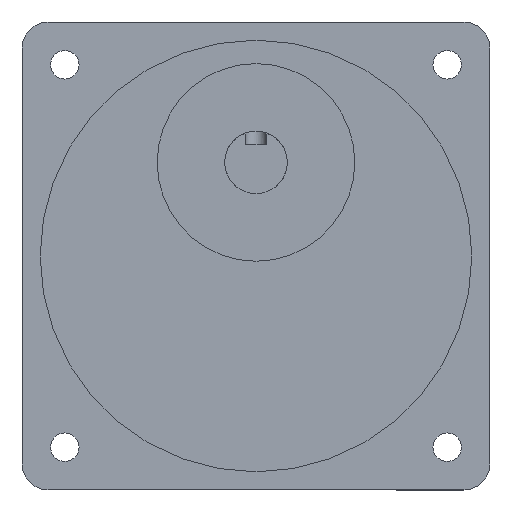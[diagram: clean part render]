
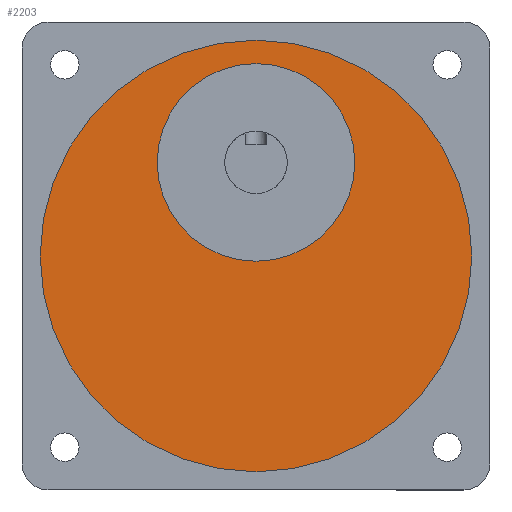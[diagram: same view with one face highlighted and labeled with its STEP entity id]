
A CAD part, front view. The second image highlights one B-rep face of the part: STEP entity #2203.
In plain terms, the highlighted planar face has unit normal (0, -1, 0).
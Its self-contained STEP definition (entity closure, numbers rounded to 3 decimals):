
#132 = VERTEX_POINT ( 'NONE', #739 ) ;
#213 = FACE_BOUND ( 'NONE', #1744, .T. ) ;
#219 = CIRCLE ( 'NONE', #3296, 19. ) ;
#272 = CARTESIAN_POINT ( 'NONE',  ( 45., -58., 3.5 ) ) ;
#343 = CARTESIAN_POINT ( 'NONE',  ( 45., -58., 45. ) ) ;
#389 = VERTEX_POINT ( 'NONE', #795 ) ;
#491 = EDGE_CURVE ( 'NONE', #4636, #389, #1712, .T. ) ;
#645 = DIRECTION ( 'NONE',  ( 0., -1., 0. ) ) ;
#739 = CARTESIAN_POINT ( 'NONE',  ( 45., -58., 86.5 ) ) ;
#795 = CARTESIAN_POINT ( 'NONE',  ( 45., -58., 82. ) ) ;
#802 = FACE_OUTER_BOUND ( 'NONE', #4307, .T. ) ;
#825 = DIRECTION ( 'NONE',  ( 0., -1., 0. ) ) ;
#840 = CARTESIAN_POINT ( 'NONE',  ( 45., -58., 63. ) ) ;
#1081 = DIRECTION ( 'NONE',  ( 0., 0., -1. ) ) ;
#1135 = DIRECTION ( 'NONE',  ( 0., 0., -1. ) ) ;
#1250 = ORIENTED_EDGE ( 'NONE', *, *, #2717, .T. ) ;
#1253 = AXIS2_PLACEMENT_3D ( 'NONE', #840, #825, #4583 ) ;
#1263 = ORIENTED_EDGE ( 'NONE', *, *, #491, .F. ) ;
#1400 = DIRECTION ( 'NONE',  ( 0., -1., 0. ) ) ;
#1414 = EDGE_CURVE ( 'NONE', #389, #4636, #219, .T. ) ;
#1467 = DIRECTION ( 'NONE',  ( 0., -1., 0. ) ) ;
#1469 = DIRECTION ( 'NONE',  ( 0., 0., -1. ) ) ;
#1577 = CIRCLE ( 'NONE', #4465, 41.5 ) ;
#1712 = CIRCLE ( 'NONE', #1253, 19. ) ;
#1744 = EDGE_LOOP ( 'NONE', ( #3440, #1263 ) ) ;
#1847 = EDGE_CURVE ( 'NONE', #3298, #132, #2282, .T. ) ;
#2188 = CARTESIAN_POINT ( 'NONE',  ( 45., -58., 45. ) ) ;
#2203 = ADVANCED_FACE ( 'NONE', ( #213, #802 ), #3318, .T. ) ;
#2282 = CIRCLE ( 'NONE', #3840, 41.5 ) ;
#2625 = CARTESIAN_POINT ( 'NONE',  ( 45., -58., 63. ) ) ;
#2668 = AXIS2_PLACEMENT_3D ( 'NONE', #2188, #1400, #1469 ) ;
#2717 = EDGE_CURVE ( 'NONE', #132, #3298, #1577, .T. ) ;
#2744 = CARTESIAN_POINT ( 'NONE',  ( 45., -58., 44. ) ) ;
#2945 = DIRECTION ( 'NONE',  ( 0., 0., -1. ) ) ;
#3296 = AXIS2_PLACEMENT_3D ( 'NONE', #2625, #1467, #1135 ) ;
#3298 = VERTEX_POINT ( 'NONE', #272 ) ;
#3318 = PLANE ( 'NONE',  #2668 ) ;
#3440 = ORIENTED_EDGE ( 'NONE', *, *, #1414, .F. ) ;
#3704 = ORIENTED_EDGE ( 'NONE', *, *, #1847, .T. ) ;
#3840 = AXIS2_PLACEMENT_3D ( 'NONE', #4442, #645, #1081 ) ;
#4042 = DIRECTION ( 'NONE',  ( 0., -1., 0. ) ) ;
#4307 = EDGE_LOOP ( 'NONE', ( #3704, #1250 ) ) ;
#4442 = CARTESIAN_POINT ( 'NONE',  ( 45., -58., 45. ) ) ;
#4465 = AXIS2_PLACEMENT_3D ( 'NONE', #343, #4042, #2945 ) ;
#4583 = DIRECTION ( 'NONE',  ( 0., 0., -1. ) ) ;
#4636 = VERTEX_POINT ( 'NONE', #2744 ) ;
